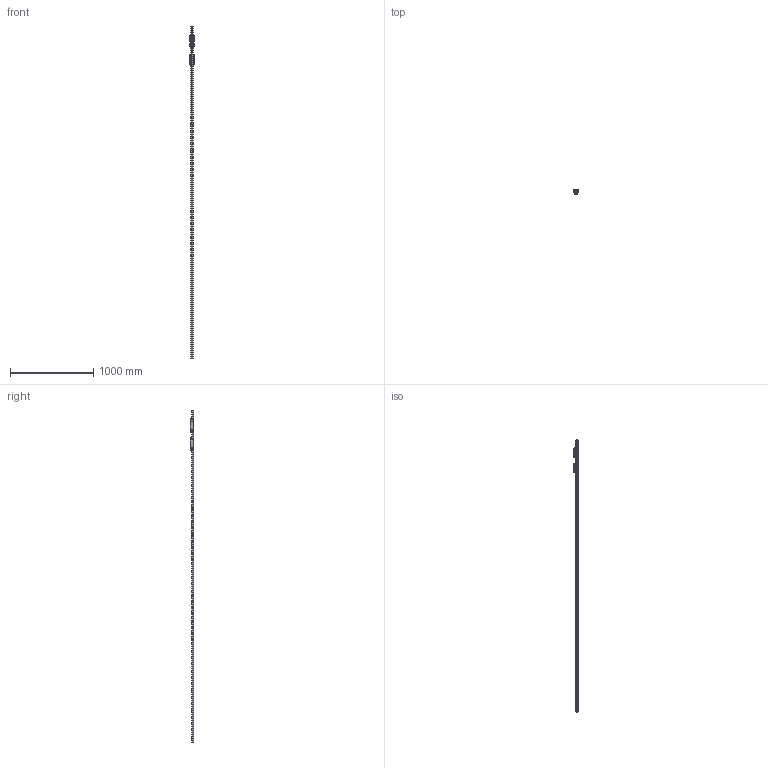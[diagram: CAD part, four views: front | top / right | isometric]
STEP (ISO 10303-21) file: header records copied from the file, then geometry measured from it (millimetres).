
FILE_DESCRIPTION((''),'2;1');
FILE_NAME('BRS30-LR_CUSTOMER_ASM_1_ASM_ASM','2020-11-24T15:21:38',('TWVS2025'),(''),'CREO PARAMETRIC BY PTC INC, 2018420','CREO PARAMETRIC BY PTC INC, 2018420','');
FILE_SCHEMA(('CONFIG_CONTROL_DESIGN'));
Products named in the file (6): BC-BRC30-LR_ASM_1_1_1; BC-BRC30-LR_ASM_1_ASM_1_ASM; BRR30_CUSTOMER_1_1_1_2_3; BC-BRD30-LR_ASM_ASM_1_ASM; BRS30-LR_CUSTOMER_ASM_1_ASM_1_ASM; BRS30-LR_CUSTOMER_ASM_1_ASM_ASM
Assembly tree (5 placements, depth 4):
  BRS30-LR_CUSTOMER_ASM_1_ASM_ASM
    BRS30-LR_CUSTOMER_ASM_1_ASM_1_ASM
      BC-BRC30-LR_ASM_1_ASM_1_ASM
        BC-BRC30-LR_ASM_1_1_1
      BRR30_CUSTOMER_1_1_1_2_3
      BC-BRD30-LR_ASM_ASM_1_ASM
Bounding box: 59.95 x 45 x 4000 mm (x, y, z)
Volume: 2449262.3 mm3; surface area: 631034.1 mm2
Topology: 25 solids, 45 shells, 3943 faces, 11667 edges, 7607 vertices
Faces by surface type: plane 2167, cylinder 1103, bspline 236, cone 168, torus 158, sphere 95, extrusion 16
Entity records: 179221 total; most frequent: CARTESIAN_POINT 76626, ORIENTED_EDGE 22957, DIRECTION 19353, EDGE_CURVE 11580, VERTEX_POINT 7607, VECTOR 6525, LINE 6509, AXIS2_PLACEMENT_3D 6414
